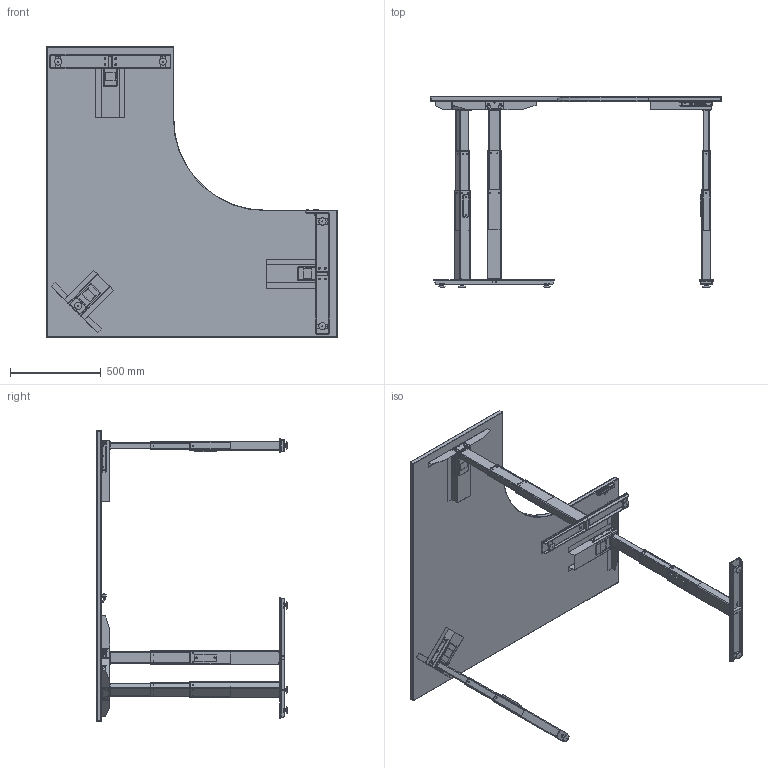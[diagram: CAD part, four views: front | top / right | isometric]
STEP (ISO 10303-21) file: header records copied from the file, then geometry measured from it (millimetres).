
FILE_DESCRIPTION(/* description */ ('','CAx-IF Rec.Pracs.---Representation and Presentation of Product Manufacturing Information (PMI)---4.0---2014-10-13'),/* implementation_level */ '2;1');
FILE_NAME(/* name */ 'BLACK1600standing.step',/* time_stamp */ '2025-03-05T11:20:08+13:00',/* author */ (''),/* organization */ (''),/* preprocessor_version */ 'ST-DEVELOPER v20',/* originating_system */ 'Autodesk Translation Framework v13.20.0.188',/* authorisation */ '');
FILE_SCHEMA (('AP242_MANAGED_MODEL_BASED_3D_ENGINEERING_MIM_LF { 1 0 10303 442 1 1 4 }'));
Products named in the file (28): BLACK; DPF1C_DISPLAY_BRACKET; HAW LEG Long; DL6_BIFMA_WITH_BRACKET_ASM; Metalon Foot; MetalonAdjFoot; MetalonAdjFoot_1; HAW LEG Long_1; Component12; Component13; DL6_BIFMA_WITH_BRACKET_ASM_1; DL6NC_MP; STANDART_MOTORHUS_DL6_BIFMA1; DL6NC_BIFMA_OP_NEW; Metalon Foot_1; MetalonAdjFoot_2; MetalonAdjFoot_3; MetalonAdjFoot_4; HAW LEG Short v8; Component12_1; Component13_1; DL6_BIFMA_WITH_BRACKET_ASM_2; DL6NC_MP_1; STANDART_MOTORHUS_DL6_BIFMA1_1; DL6NC_BIFMA_OP_NEW_1; HAW middle leg v3; MetalonAdjFoot v8; MetalonAdjFoot_5
Assembly tree (35 placements, depth 5):
  BLACK
    DPF1C_DISPLAY_BRACKET
    HAW LEG Long
      Component12
      Component13
      DL6_BIFMA_WITH_BRACKET_ASM
        DL6NC_MP
        STANDART_MOTORHUS_DL6_BIFMA1
        DL6NC_BIFMA_OP_NEW
      Metalon Foot
        MetalonAdjFoot
          MetalonAdjFoot_4
        MetalonAdjFoot_1
          MetalonAdjFoot_4
    HAW LEG Long_1
      Component12
      Component13
      DL6_BIFMA_WITH_BRACKET_ASM_1
        DL6NC_MP
        STANDART_MOTORHUS_DL6_BIFMA1
        DL6NC_BIFMA_OP_NEW
      Metalon Foot_1
        MetalonAdjFoot_2
          MetalonAdjFoot_4
        MetalonAdjFoot_3
          MetalonAdjFoot_4
    HAW LEG Short v8
      Component12_1
      Component13_1
      DL6_BIFMA_WITH_BRACKET_ASM_2
        DL6NC_MP_1
        STANDART_MOTORHUS_DL6_BIFMA1_1
        DL6NC_BIFMA_OP_NEW_1
      HAW middle leg v3
        MetalonAdjFoot v8
          MetalonAdjFoot_5
Bounding box: 1600 x 1050 x 1600 mm (x, y, z)
Volume: 62025711 mm3; surface area: 5951048.1 mm2
Topology: 36 solids, 37 shells, 4351 faces, 11358 edges, 7199 vertices
Faces by surface type: plane 2289, cylinder 1490, torus 235, bspline 190, sphere 133, cone 14
Full cylindrical faces by diameter (mm): 0.4 x1, 1 x2, 4.6 x6, 5 x30, 5.3 x36, 5.5 x12, 6.8 x6, 7 x6, 7.7 x4, 8 x29, 10 x4, 15 x1
Entity records: 116811 total; most frequent: CARTESIAN_POINT 38125, ORIENTED_EDGE 16430, DIRECTION 16381, EDGE_CURVE 8215, AXIS2_PLACEMENT_3D 5754, VERTEX_POINT 5228, LINE 4873, VECTOR 4873
